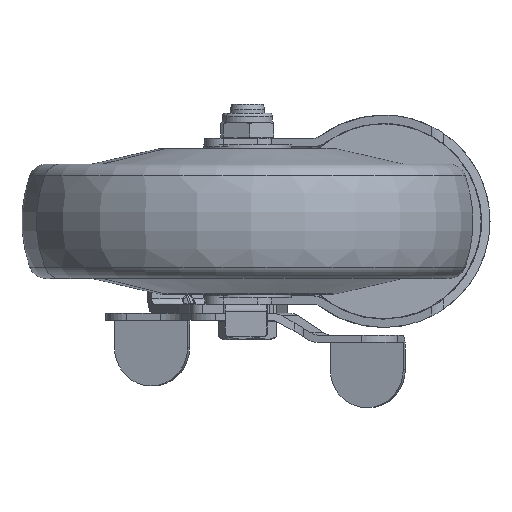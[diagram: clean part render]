
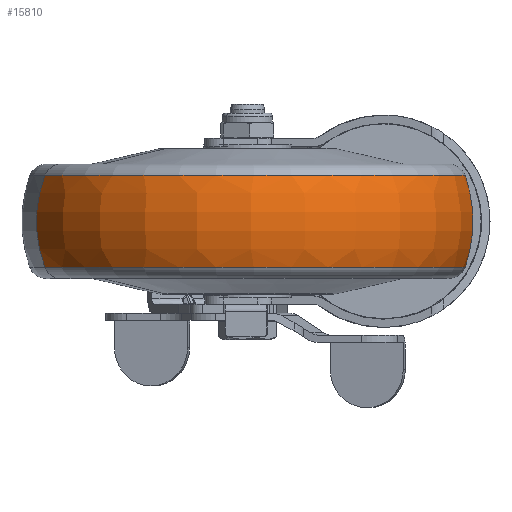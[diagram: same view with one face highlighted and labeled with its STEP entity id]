
A CAD part, front view. The second image highlights one B-rep face of the part: STEP entity #15810.
In plain terms, the highlighted toroidal (fillet/blend) face has major radius 29.539 mm and minor radius 32.961 mm.
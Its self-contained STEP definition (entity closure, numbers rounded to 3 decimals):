
#155 = AXIS2_PLACEMENT_3D ( 'NONE', #20848, #22445, #6668 ) ;
#1091 = DIRECTION ( 'NONE',  ( 0., 0., 1. ) ) ;
#1886 = AXIS2_PLACEMENT_3D ( 'NONE', #22464, #22352, #17237 ) ;
#3134 = DIRECTION ( 'NONE',  ( 0., 1., 0. ) ) ;
#3378 = AXIS2_PLACEMENT_3D ( 'NONE', #5666, #12650, #14578 ) ;
#4242 = EDGE_LOOP ( 'NONE', ( #6714, #11748, #7903, #17463 ) ) ;
#5058 = EDGE_CURVE ( 'NONE', #21024, #14016, #6916, .T. ) ;
#5666 = CARTESIAN_POINT ( 'NONE',  ( -12.672, 0., 0. ) ) ;
#5961 = CARTESIAN_POINT ( 'NONE',  ( -12.672, 0., 59.967 ) ) ;
#6668 = DIRECTION ( 'NONE',  ( 0., 0., -1. ) ) ;
#6714 = ORIENTED_EDGE ( 'NONE', *, *, #5058, .F. ) ;
#6916 = CIRCLE ( 'NONE', #12031, 32.961 ) ;
#7056 = EDGE_CURVE ( 'NONE', #15392, #17343, #11737, .T. ) ;
#7903 = ORIENTED_EDGE ( 'NONE', *, *, #7056, .T. ) ;
#9891 = AXIS2_PLACEMENT_3D ( 'NONE', #17531, #13665, #20633 ) ;
#9980 = CARTESIAN_POINT ( 'NONE',  ( 0., 0., 29.539 ) ) ;
#11737 = CIRCLE ( 'NONE', #1886, 32.961 ) ;
#11748 = ORIENTED_EDGE ( 'NONE', *, *, #20686, .T. ) ;
#11795 = CARTESIAN_POINT ( 'NONE',  ( 12.672, 0., -59.967 ) ) ;
#12031 = AXIS2_PLACEMENT_3D ( 'NONE', #9980, #3134, #1091 ) ;
#12650 = DIRECTION ( 'NONE',  ( 1., 0., 0. ) ) ;
#13591 = CARTESIAN_POINT ( 'NONE',  ( 12.672, 0., 59.967 ) ) ;
#13660 = TOROIDAL_SURFACE ( 'NONE', #155, 29.539, 32.961 ) ;
#13665 = DIRECTION ( 'NONE',  ( 1., 0., 0. ) ) ;
#14016 = VERTEX_POINT ( 'NONE', #13591 ) ;
#14578 = DIRECTION ( 'NONE',  ( 0., 0., -1. ) ) ;
#15392 = VERTEX_POINT ( 'NONE', #21567 ) ;
#15810 = ADVANCED_FACE ( 'NONE', ( #18821 ), #13660, .T. ) ;
#16158 = CIRCLE ( 'NONE', #3378, 59.967 ) ;
#17237 = DIRECTION ( 'NONE',  ( 0., 0., -1. ) ) ;
#17343 = VERTEX_POINT ( 'NONE', #11795 ) ;
#17463 = ORIENTED_EDGE ( 'NONE', *, *, #19756, .F. ) ;
#17531 = CARTESIAN_POINT ( 'NONE',  ( 12.672, 0., 0. ) ) ;
#18821 = FACE_OUTER_BOUND ( 'NONE', #4242, .T. ) ;
#19756 = EDGE_CURVE ( 'NONE', #14016, #17343, #21581, .T. ) ;
#20633 = DIRECTION ( 'NONE',  ( 0., 0., -1. ) ) ;
#20686 = EDGE_CURVE ( 'NONE', #21024, #15392, #16158, .T. ) ;
#20848 = CARTESIAN_POINT ( 'NONE',  ( 0., 0., 0. ) ) ;
#21024 = VERTEX_POINT ( 'NONE', #5961 ) ;
#21567 = CARTESIAN_POINT ( 'NONE',  ( -12.672, 0., -59.967 ) ) ;
#21581 = CIRCLE ( 'NONE', #9891, 59.967 ) ;
#22352 = DIRECTION ( 'NONE',  ( 0., -1., 0. ) ) ;
#22445 = DIRECTION ( 'NONE',  ( 1., 0., 0. ) ) ;
#22464 = CARTESIAN_POINT ( 'NONE',  ( 0., 0., -29.539 ) ) ;
